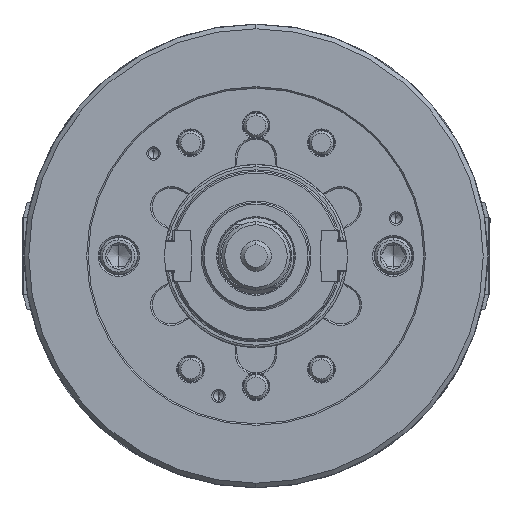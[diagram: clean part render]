
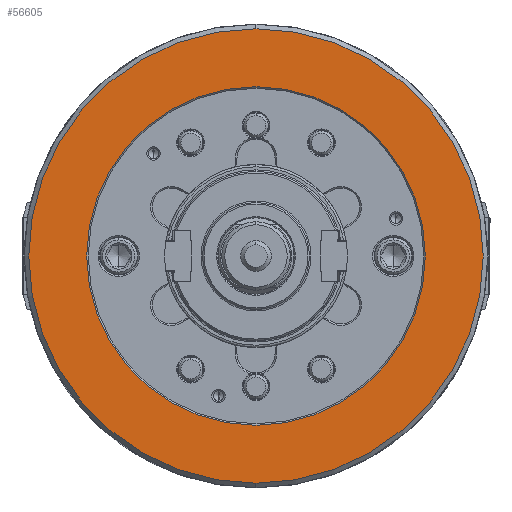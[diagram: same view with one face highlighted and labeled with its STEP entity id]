
A CAD part, left-side view. The second image highlights one B-rep face of the part: STEP entity #56605.
In plain terms, the highlighted planar face has unit normal (-1, 0, 0).
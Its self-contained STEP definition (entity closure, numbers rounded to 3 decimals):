
#1994 = ORIENTED_EDGE ( 'NONE', *, *, #80498, .T. ) ;
#2631 = ORIENTED_EDGE ( 'NONE', *, *, #86530, .F. ) ;
#4563 = CARTESIAN_POINT ( 'NONE',  ( -106., -149., 0. ) ) ;
#13736 = VERTEX_POINT ( 'NONE', #48667 ) ;
#20351 = CIRCLE ( 'NONE', #83627, 111. ) ;
#21496 = ORIENTED_EDGE ( 'NONE', *, *, #41923, .F. ) ;
#21975 = AXIS2_PLACEMENT_3D ( 'NONE', #22565, #30482, #108014 ) ;
#22094 = CARTESIAN_POINT ( 'NONE',  ( -106., 0., 111. ) ) ;
#22319 = DIRECTION ( 'NONE',  ( 1., 0., 0. ) ) ;
#22526 = EDGE_LOOP ( 'NONE', ( #21496, #2631 ) ) ;
#22565 = CARTESIAN_POINT ( 'NONE',  ( -106., 0., 0. ) ) ;
#24371 = VERTEX_POINT ( 'NONE', #22094 ) ;
#24636 = CARTESIAN_POINT ( 'NONE',  ( -106., 0., -149. ) ) ;
#30482 = DIRECTION ( 'NONE',  ( 1., 0., 0. ) ) ;
#34454 = DIRECTION ( 'NONE',  ( 1., 0., 0. ) ) ;
#36900 = EDGE_CURVE ( 'NONE', #13736, #24371, #20351, .T. ) ;
#40315 = CARTESIAN_POINT ( 'NONE',  ( -106., 0., 0. ) ) ;
#41923 = EDGE_CURVE ( 'NONE', #45380, #76138, #70810, .T. ) ;
#45380 = VERTEX_POINT ( 'NONE', #24636 ) ;
#47590 = FACE_OUTER_BOUND ( 'NONE', #22526, .T. ) ;
#48667 = CARTESIAN_POINT ( 'NONE',  ( -106., 0., -111. ) ) ;
#48710 = DIRECTION ( 'NONE',  ( 0., 0., -1. ) ) ;
#49720 = ORIENTED_EDGE ( 'NONE', *, *, #36900, .T. ) ;
#55383 = AXIS2_PLACEMENT_3D ( 'NONE', #64770, #22319, #92522 ) ;
#56605 = ADVANCED_FACE ( 'NONE', ( #47590, #73083 ), #109253, .F. ) ;
#59573 = CIRCLE ( 'NONE', #102870, 149. ) ;
#62737 = DIRECTION ( 'NONE',  ( 0., 0., -1. ) ) ;
#64770 = CARTESIAN_POINT ( 'NONE',  ( -106., 0., 0. ) ) ;
#70810 = CIRCLE ( 'NONE', #21975, 149. ) ;
#72523 = EDGE_LOOP ( 'NONE', ( #1994, #49720 ) ) ;
#73083 = FACE_BOUND ( 'NONE', #72523, .T. ) ;
#75964 = AXIS2_PLACEMENT_3D ( 'NONE', #4563, #98530, #48710 ) ;
#76138 = VERTEX_POINT ( 'NONE', #92487 ) ;
#80498 = EDGE_CURVE ( 'NONE', #24371, #13736, #104173, .T. ) ;
#83627 = AXIS2_PLACEMENT_3D ( 'NONE', #87670, #34454, #62737 ) ;
#86530 = EDGE_CURVE ( 'NONE', #76138, #45380, #59573, .T. ) ;
#87670 = CARTESIAN_POINT ( 'NONE',  ( -106., 0., 0. ) ) ;
#92429 = DIRECTION ( 'NONE',  ( 1., 0., 0. ) ) ;
#92487 = CARTESIAN_POINT ( 'NONE',  ( -106., 0., 149. ) ) ;
#92522 = DIRECTION ( 'NONE',  ( 0., 0., -1. ) ) ;
#93539 = DIRECTION ( 'NONE',  ( 0., 0., -1. ) ) ;
#98530 = DIRECTION ( 'NONE',  ( 1., 0., 0. ) ) ;
#102870 = AXIS2_PLACEMENT_3D ( 'NONE', #40315, #92429, #93539 ) ;
#104173 = CIRCLE ( 'NONE', #55383, 111. ) ;
#108014 = DIRECTION ( 'NONE',  ( 0., 0., -1. ) ) ;
#109253 = PLANE ( 'NONE',  #75964 ) ;
